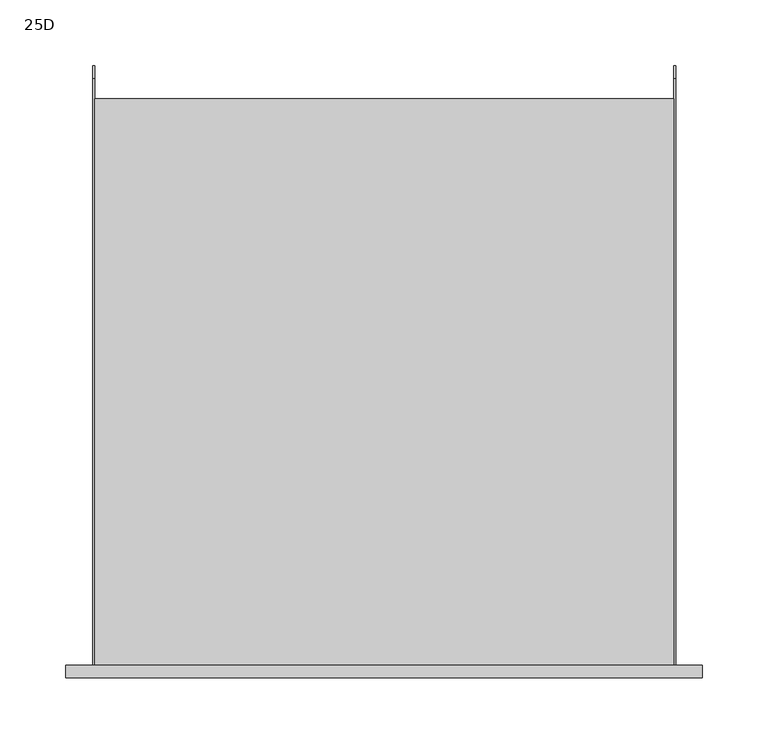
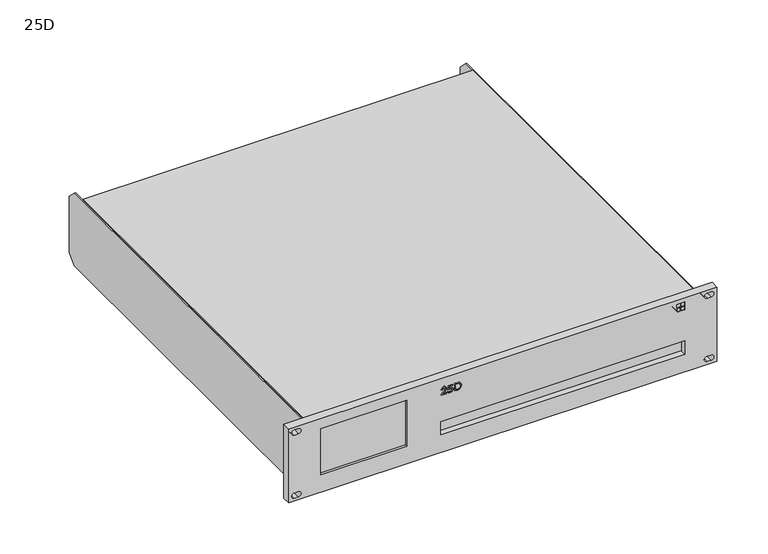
"""IFC4 building model written with IfcOpenShell, lengths in millimetres: proxy geometry, d&b 25D Amplifier : 25D."""

from ifc_helpers import new_model, si_unit, point, frame, frame_2d, origin, origin_with_axes, place, context, project, spatial, polyline, circle_curve, trimmed, segment, composite_curve, outline, extrude, source, transform, mapped, element, save
from ifc_brep_helpers import plane_surface, cylinder_surface, revolved_surface, advanced_brep


def proxy_25d_7f1fb636(model_context):
    return source(origin(), model_context, "Body", "SolidModel", [
        extrude(outline(polyline([(-108.5441747, -219.9500768), (-205.9068249, -219.9500768), (-205.9068249, -212.9500195), (-108.5441747, -212.9500195), (-108.5441747, -219.9500768)])), frame((0.0, 0.0, 20.974976), z_axis=(0.0, 0.0, 1.0), x_axis=(1.0, 0.0, 0.0)), (0.0, 0.0, 1.0), 54.75),
        advanced_brep(
        [(241.669281, -212.9500195, 88.1230012), (241.669281, -222.4500768, 88.1230012), (241.669281, -222.4500768, 0.0), (241.669281, -212.9500195, 0.0), (205.5000687, -222.4500768, 20.974976), (205.5000687, -222.4500768, 37.024963), (205.5000687, -212.9500768, 37.024963), (205.5000687, -212.9500768, 20.974976), (-241.7, -212.9500768, 0.0), (-241.7, -212.9500768, 88.1230012), (-70.1626284, -212.9500768, 37.024963), (-70.1626284, -212.9500768, 20.974976), (-108.5441747, -212.9500768, 75.724976), (-205.9068249, -212.9500768, 75.724976), (-205.9068249, -212.9500768, 20.974976), (-108.5441747, -212.9500768, 20.974976), (198.5187193, -212.9500768, 74.1137333), (198.5187193, -212.9500768, 78.3632503), (200.6434778, -212.9500768, 78.9703242), (200.6434778, -212.9500768, 83.2198412), (196.3939608, -212.9500768, 83.2198412), (196.3939608, -212.9500768, 78.9703242), (201.2505517, -212.9500768, 83.2198412), (201.2505517, -212.9500768, 78.9703242), (205.5000687, -212.9500768, 78.9703242), (205.5000687, -212.9500768, 83.2198412), (201.2505517, -212.9500768, 78.3632503), (201.2505517, -212.9500768, 74.1137333), (205.5000687, -212.9500768, 74.1137333), (205.5000687, -212.9500768, 78.3632503), (-54.4375523, -212.9500768, 67.9515495), (-51.174154, -212.9500768, 67.9515495), (-51.174154, -212.9500768, 76.9164526), (-54.4375523, -212.9500768, 76.9164526), (230.8500595, -212.9500768, 78.7506142), (235.3581466, -212.9500768, 78.7506142), (235.3581466, -212.9500768, 84.7610473), (230.8500595, -212.9500768, 84.7610473), (230.8500595, -212.9500768, 9.372387), (230.8500595, -212.9500768, 3.3619538), (235.3581466, -212.9500768, 3.3619538), (235.3581466, -212.9500768, 9.372387), (-230.8807784, -212.9500768, 78.7506142), (-230.8807784, -212.9500768, 84.7610473), (-235.3888656, -212.9500768, 84.7610473), (-235.3888656, -212.9500768, 78.7506142), (-230.8807784, -212.9500768, 9.372387), (-235.3888656, -212.9500768, 9.372387), (-235.3888656, -212.9500768, 3.3619538), (-230.8807784, -212.9500768, 3.3619538), (-56.7666203, -212.9500768, 76.9164526), (-61.6578079, -212.9500768, 76.9164526), (-62.0556576, -212.9500768, 72.3690094), (-58.9110261, -212.9500768, 72.3690094), (-58.4035059, -212.9500768, 69.7179459), (-62.2493719, -212.9500768, 70.1548451), (-62.3937449, -212.9500768, 68.5046542), (-57.8494895, -212.9500768, 68.3240069), (-58.9110261, -212.9500768, 73.8690094), (-60.4186949, -212.9500768, 73.8690094), (-60.2824279, -212.9500768, 75.4265482), (-56.7666203, -212.9500768, 75.4265482), (-68.0438354, -212.9500768, 74.1711021), (-65.2872376, -212.9500768, 74.1711021), (-66.5650827, -212.9500768, 72.1135144), (-68.2702906, -212.9500768, 70.6826751), (-69.5438354, -212.9500768, 67.9515495), (-63.7872376, -212.9500768, 67.9515495), (-63.7872376, -212.9500768, 69.4515495), (-67.4039033, -212.9500768, 69.4515495), (-65.6009013, -212.9500768, 70.9644478), (-63.7940357, -212.9500768, 73.9733949), (-69.5438354, -212.9500768, 74.1711021), (-241.7, -222.4500768, 88.1230012), (-241.7, -222.4500768, 0.0), (-70.1626284, -222.4500768, 20.974976), (-70.1626284, -222.4500768, 37.024963), (-108.5441747, -222.4500768, 75.724976), (-108.5441747, -222.4500768, 20.974976), (-205.9068249, -222.4500768, 20.974976), (-205.9068249, -222.4500768, 75.724976), (198.5187193, -222.4500768, 74.1137333), (198.5187193, -222.4500768, 78.3632503), (200.6434778, -222.4500768, 78.9703242), (196.3939608, -222.4500768, 78.9703242), (196.3939608, -222.4500768, 83.2198412), (200.6434778, -222.4500768, 83.2198412), (201.2505517, -222.4500768, 83.2198412), (205.5000687, -222.4500768, 83.2198412), (205.5000687, -222.4500768, 78.9703242), (201.2505517, -222.4500768, 78.9703242), (201.2505517, -222.4500768, 78.3632503), (205.5000687, -222.4500768, 78.3632503), (205.5000687, -222.4500768, 74.1137333), (201.2505517, -222.4500768, 74.1137333), (-54.4375523, -222.4500768, 67.9515495), (-54.4375523, -222.4500768, 76.9164526), (-51.174154, -222.4500768, 76.9164526), (-51.174154, -222.4500768, 67.9515495), (230.8500595, -222.4500768, 78.7506142), (230.8500595, -222.4500768, 84.7610473), (235.3581466, -222.4500768, 84.7610473), (235.3581466, -222.4500768, 78.7506142), (230.8500595, -222.4500768, 9.372387), (235.3581466, -222.4500768, 9.372387), (235.3581466, -222.4500768, 3.3619538), (230.8500595, -222.4500768, 3.3619538), (-230.8807784, -222.4500768, 78.7506142), (-235.3888656, -222.4500768, 78.7506142), (-235.3888656, -222.4500768, 84.7610473), (-230.8807784, -222.4500768, 84.7610473), (-230.8807784, -222.4500768, 9.372387), (-230.8807784, -222.4500768, 3.3619538), (-235.3888656, -222.4500768, 3.3619538), (-235.3888656, -222.4500768, 9.372387), (-56.7666203, -222.4500768, 76.9164526), (-56.7666203, -222.4500768, 75.4265482), (-60.2824279, -222.4500768, 75.4265482), (-60.4186949, -222.4500768, 73.8690094), (-58.9110261, -222.4500768, 73.8690094), (-57.8494895, -222.4500768, 68.3240069), (-62.3937449, -222.4500768, 68.5046542), (-62.2493719, -222.4500768, 70.1548451), (-58.4035059, -222.4500768, 69.7179459), (-58.9110261, -222.4500768, 72.3690094), (-62.0556576, -222.4500768, 72.3690094), (-61.6578079, -222.4500768, 76.9164526), (-68.0438354, -222.4500768, 74.1711021), (-69.5438354, -222.4500768, 74.1711021), (-63.7940357, -222.4500768, 73.9733949), (-65.6009013, -222.4500768, 70.9644478), (-67.4039033, -222.4500768, 69.4515495), (-63.7872376, -222.4500768, 69.4515495), (-63.7872376, -222.4500768, 67.9515495), (-69.5438354, -222.4500768, 67.9515495), (-68.2702906, -222.4500768, 70.6826751), (-66.5650827, -222.4500768, 72.1135144), (-65.2872376, -222.4500768, 74.1711021)],
        [
            (0, 1),
            (1, 2),
            (2, 3),
            (3, 0),
            (4, 5),
            (5, 6),
            (6, 7),
            (7, 4),
            (3, 8),
            (8, 9),
            (9, 0),
            (6, 10),
            (10, 11),
            (11, 7),
            (12, 13),
            (13, 14),
            (14, 15),
            (15, 12),
            (16, 17, circle_curve(frame((198.5187193, -212.9500768, 76.2384918), z_axis=(0.0, -1.0, 0.0), x_axis=(0.0, 0.0, 1.0)), 2.1247585)),
            (17, 16, circle_curve(frame((198.5187193, -212.9500768, 76.2384918), z_axis=(0.0, -1.0, 0.0), x_axis=(0.0, 0.0, 1.0)), 2.1247585)),
            (18, 19),
            (19, 20),
            (20, 21),
            (21, 18),
            (22, 23),
            (23, 24),
            (24, 25),
            (25, 22),
            (26, 27),
            (27, 28),
            (28, 29),
            (29, 26),
            (30, 31),
            (31, 32, circle_curve(frame((-51.174154, -212.9500768, 72.434001), z_axis=(0.0, -1.0, 0.0), x_axis=(1.0, 0.0, 0.0)), 4.4824516)),
            (32, 33),
            (33, 30),
            (34, 35),
            (35, 36, circle_curve(frame((235.3581466, -212.9500768, 81.7558307), z_axis=(0.0, -1.0, 0.0), x_axis=(-1.0, 0.0, 0.0)), 3.0052166)),
            (36, 37),
            (37, 34, circle_curve(frame((230.8500595, -212.9500768, 81.7558307), z_axis=(0.0, -1.0, 0.0), x_axis=(-1.0, 0.0, 0.0)), 3.0052166)),
            (38, 39, circle_curve(frame((230.8500595, -212.9500768, 6.3671704), z_axis=(0.0, -1.0, 0.0), x_axis=(-1.0, 0.0, 0.0)), 3.0052166)),
            (39, 40),
            (40, 41, circle_curve(frame((235.3581466, -212.9500768, 6.3671704), z_axis=(0.0, -1.0, 0.0), x_axis=(-1.0, 0.0, 0.0)), 3.0052166)),
            (41, 38),
            (42, 43, circle_curve(frame((-230.8807784, -212.9500768, 81.7558307), z_axis=(0.0, -1.0, 0.0), x_axis=(1.0, 0.0, 0.0)), 3.0052166)),
            (43, 44),
            (44, 45, circle_curve(frame((-235.3888656, -212.9500768, 81.7558307), z_axis=(0.0, -1.0, 0.0), x_axis=(1.0, 0.0, 0.0)), 3.0052166)),
            (45, 42),
            (46, 47),
            (47, 48, circle_curve(frame((-235.3888656, -212.9500768, 6.3671704), z_axis=(0.0, -1.0, 0.0), x_axis=(1.0, 0.0, 0.0)), 3.0052166)),
            (48, 49),
            (49, 46, circle_curve(frame((-230.8807784, -212.9500768, 6.3671704), z_axis=(0.0, -1.0, 0.0), x_axis=(1.0, 0.0, 0.0)), 3.0052166)),
            (50, 51),
            (51, 52),
            (52, 53),
            (53, 54, circle_curve(frame((-58.9110261, -212.9500768, 70.9948977), z_axis=(0.0, 1.0, 0.0), x_axis=(1.0, 0.0, 0.0)), 1.3741117)),
            (54, 55, circle_curve(frame((-59.9182854, -212.9500768, 73.5292234), z_axis=(0.0, 1.0, 0.0), x_axis=(1.0, 0.0, 0.0)), 4.1012672)),
            (55, 56),
            (56, 57, circle_curve(frame((-59.9182854, -212.9500768, 73.5292234), z_axis=(0.0, -1.0, 0.0), x_axis=(1.0, 0.0, 0.0)), 5.6012672)),
            (57, 58, circle_curve(frame((-58.9110261, -212.9500768, 70.9948977), z_axis=(0.0, -1.0, 0.0), x_axis=(1.0, 0.0, 0.0)), 2.8741117)),
            (58, 59),
            (59, 60),
            (60, 61),
            (61, 50),
            (62, 63, circle_curve(frame((-66.6655365, -212.9500768, 74.1711021), z_axis=(0.0, 1.0, 0.0), x_axis=(1.0, 0.0, 0.0)), 1.3782989)),
            (63, 64, circle_curve(frame((-69.0629936, -212.9500768, 75.0904087), z_axis=(0.0, 1.0, 0.0), x_axis=(1.0, 0.0, 0.0)), 3.8860595)),
            (64, 65),
            (65, 66, circle_curve(frame((-65.8736338, -212.9500768, 67.9026011), z_axis=(0.0, -1.0, 0.0), x_axis=(1.0, 0.0, 0.0)), 3.6705279)),
            (66, 67),
            (67, 68),
            (68, 69),
            (69, 70),
            (70, 71, circle_curve(frame((-69.0629936, -212.9500768, 75.0904087), z_axis=(0.0, -1.0, 0.0), x_axis=(1.0, 0.0, 0.0)), 5.3860595)),
            (71, 72, circle_curve(frame((-66.6655365, -212.9500768, 74.1711021), z_axis=(0.0, -1.0, 0.0), x_axis=(1.0, 0.0, 0.0)), 2.8782989)),
            (72, 62),
            (1, 73),
            (73, 74),
            (74, 2),
            (4, 75),
            (75, 76),
            (76, 5),
            (77, 78),
            (78, 79),
            (79, 80),
            (80, 77),
            (81, 82, circle_curve(frame((198.5187193, -222.4500768, 76.2384918), z_axis=(0.0, 1.0, 0.0), x_axis=(0.0, 0.0, 1.0)), 2.1247585)),
            (82, 81, circle_curve(frame((198.5187193, -222.4500768, 76.2384918), z_axis=(0.0, 1.0, 0.0), x_axis=(0.0, 0.0, 1.0)), 2.1247585)),
            (83, 84),
            (84, 85),
            (85, 86),
            (86, 83),
            (87, 88),
            (88, 89),
            (89, 90),
            (90, 87),
            (91, 92),
            (92, 93),
            (93, 94),
            (94, 91),
            (95, 96),
            (96, 97),
            (97, 98, circle_curve(frame((-51.174154, -222.4500768, 72.434001), z_axis=(0.0, 1.0, 0.0), x_axis=(1.0, 0.0, 0.0)), 4.4824516)),
            (98, 95),
            (99, 100, circle_curve(frame((230.8500595, -222.4500768, 81.7558307), z_axis=(0.0, 1.0, 0.0), x_axis=(-1.0, 0.0, 0.0)), 3.0052166)),
            (100, 101),
            (101, 102, circle_curve(frame((235.3581466, -222.4500768, 81.7558307), z_axis=(0.0, 1.0, 0.0), x_axis=(-1.0, 0.0, 0.0)), 3.0052166)),
            (102, 99),
            (103, 104),
            (104, 105, circle_curve(frame((235.3581466, -222.4500768, 6.3671704), z_axis=(0.0, 1.0, 0.0), x_axis=(-1.0, 0.0, 0.0)), 3.0052166)),
            (105, 106),
            (106, 103, circle_curve(frame((230.8500595, -222.4500768, 6.3671704), z_axis=(0.0, 1.0, 0.0), x_axis=(-1.0, 0.0, 0.0)), 3.0052166)),
            (107, 108),
            (108, 109, circle_curve(frame((-235.3888656, -222.4500768, 81.7558307), z_axis=(0.0, 1.0, 0.0), x_axis=(1.0, 0.0, 0.0)), 3.0052166)),
            (109, 110),
            (110, 107, circle_curve(frame((-230.8807784, -222.4500768, 81.7558307), z_axis=(0.0, 1.0, 0.0), x_axis=(1.0, 0.0, 0.0)), 3.0052166)),
            (111, 112, circle_curve(frame((-230.8807784, -222.4500768, 6.3671704), z_axis=(0.0, 1.0, 0.0), x_axis=(1.0, 0.0, 0.0)), 3.0052166)),
            (112, 113),
            (113, 114, circle_curve(frame((-235.3888656, -222.4500768, 6.3671704), z_axis=(0.0, 1.0, 0.0), x_axis=(1.0, 0.0, 0.0)), 3.0052166)),
            (114, 111),
            (115, 116),
            (116, 117),
            (117, 118),
            (118, 119),
            (119, 120, circle_curve(frame((-58.9110261, -222.4500768, 70.9948977), z_axis=(0.0, 1.0, 0.0), x_axis=(1.0, 0.0, 0.0)), 2.8741117)),
            (120, 121, circle_curve(frame((-59.9182854, -222.4500768, 73.5292234), z_axis=(0.0, 1.0, 0.0), x_axis=(1.0, 0.0, 0.0)), 5.6012672)),
            (121, 122),
            (122, 123, circle_curve(frame((-59.9182854, -222.4500768, 73.5292234), z_axis=(0.0, -1.0, 0.0), x_axis=(1.0, 0.0, 0.0)), 4.1012672)),
            (123, 124, circle_curve(frame((-58.9110261, -222.4500768, 70.9948977), z_axis=(0.0, -1.0, 0.0), x_axis=(1.0, 0.0, 0.0)), 1.3741117)),
            (124, 125),
            (125, 126),
            (126, 115),
            (127, 128),
            (128, 129, circle_curve(frame((-66.6655365, -222.4500768, 74.1711021), z_axis=(0.0, 1.0, 0.0), x_axis=(1.0, 0.0, 0.0)), 2.8782989)),
            (129, 130, circle_curve(frame((-69.0629936, -222.4500768, 75.0904087), z_axis=(0.0, 1.0, 0.0), x_axis=(1.0, 0.0, 0.0)), 5.3860595)),
            (130, 131),
            (131, 132),
            (132, 133),
            (133, 134),
            (134, 135, circle_curve(frame((-65.8736338, -222.4500768, 67.9026011), z_axis=(0.0, 1.0, 0.0), x_axis=(1.0, 0.0, 0.0)), 3.6705279)),
            (135, 136),
            (136, 137, circle_curve(frame((-69.0629936, -222.4500768, 75.0904087), z_axis=(0.0, -1.0, 0.0), x_axis=(1.0, 0.0, 0.0)), 3.8860595)),
            (137, 127, circle_curve(frame((-66.6655365, -222.4500768, 74.1711021), z_axis=(0.0, -1.0, 0.0), x_axis=(1.0, 0.0, 0.0)), 1.3782989)),
            (14, 79),
            (78, 15),
            (13, 80),
            (12, 77),
            (11, 75),
            (10, 76),
            (9, 73),
            (8, 74),
            (17, 82),
            (81, 16),
            (21, 84),
            (83, 18),
            (20, 85),
            (19, 86),
            (25, 88),
            (87, 22),
            (24, 89),
            (23, 90),
            (29, 92),
            (91, 26),
            (28, 93),
            (27, 94),
            (33, 96),
            (95, 30),
            (32, 97),
            (31, 98),
            (37, 100),
            (99, 34),
            (36, 101),
            (35, 102),
            (41, 104),
            (103, 38),
            (40, 105),
            (39, 106),
            (45, 108),
            (107, 42),
            (44, 109),
            (43, 110),
            (49, 112),
            (111, 46),
            (48, 113),
            (47, 114),
            (61, 116),
            (115, 50),
            (60, 117),
            (59, 118),
            (58, 119),
            (57, 120),
            (56, 121),
            (55, 122),
            (54, 123),
            (53, 124),
            (52, 125),
            (51, 126),
            (72, 128),
            (127, 62),
            (71, 129),
            (70, 130),
            (69, 131),
            (68, 132),
            (67, 133),
            (66, 134),
            (65, 135),
            (64, 136),
            (63, 137),
        ],
        [
            plane_surface(frame((241.669281, -212.9500768, 87.1230012), z_axis=(1.0, 0.0, 0.0), x_axis=(0.0, 0.0, 1.0))),
            plane_surface(frame((205.5000687, -212.9500768, 87.1230012), z_axis=(-1.0, 0.0, 0.0), x_axis=(0.0, 0.0, -1.0))),
            plane_surface(frame((241.669281, -212.9500768, 20.974976), z_axis=(0.0, 1.0, 0.0), x_axis=(-1.0, 0.0, 0.0))),
            plane_surface(frame((241.669281, -222.4500768, 37.024963), z_axis=(0.0, -1.0, 0.0), x_axis=(-1.0, 0.0, 0.0))),
            plane_surface(frame((-108.5441747, -222.4500768, 20.974976), z_axis=(0.0, 0.0, 1.0), x_axis=(0.0, 1.0, 0.0))),
            plane_surface(frame((-205.9068249, -222.4500768, 20.974976), z_axis=(1.0, 0.0, 0.0), x_axis=(0.0, 1.0, 0.0))),
            plane_surface(frame((-205.9068249, -222.4500768, 75.724976), z_axis=(0.0, 0.0, -1.0), x_axis=(0.0, 1.0, 0.0))),
            plane_surface(frame((-108.5441747, -222.4500768, 75.724976), z_axis=(-1.0, 0.0, 0.0), x_axis=(0.0, 1.0, 0.0))),
            plane_surface(frame((205.5000687, -222.4500768, 20.974976), z_axis=(0.0, 0.0, 1.0), x_axis=(0.0, 1.0, 0.0))),
            plane_surface(frame((-70.1626284, -222.4500768, 20.974976), z_axis=(1.0, 0.0, 0.0), x_axis=(0.0, 1.0, 0.0))),
            plane_surface(frame((241.669281, -222.4500768, 88.1230012), z_axis=(0.0, 0.0, 1.0), x_axis=(0.0, 1.0, 0.0))),
            plane_surface(frame((-241.7, -222.4500768, 88.1230012), z_axis=(-1.0, 0.0, 0.0), x_axis=(0.0, 1.0, 0.0))),
            plane_surface(frame((-241.7, -222.4500768, 0.0), z_axis=(0.0, 0.0, -1.0), x_axis=(0.0, 1.0, 0.0))),
            plane_surface(frame((-70.1626284, -222.4500768, 37.024963), z_axis=(0.0, 0.0, -1.0), x_axis=(0.0, 1.0, 0.0))),
            revolved_surface(polyline([(198.5187193, -212.9500768, 78.3632503), (198.5187193, -222.4500768, 78.3632503)]), (198.5187193, -222.4500768, 76.2384918), (0.0, 1.0, 0.0)),
            plane_surface(frame((200.6434778, -222.4500768, 78.9703242), z_axis=(0.0, 0.0, 1.0), x_axis=(0.0, 1.0, 0.0))),
            plane_surface(frame((196.3939608, -222.4500768, 78.9703242), z_axis=(1.0, 0.0, 0.0), x_axis=(0.0, 1.0, 0.0))),
            plane_surface(frame((196.3939608, -222.4500768, 83.2198412), z_axis=(0.0, 0.0, -1.0), x_axis=(0.0, 1.0, 0.0))),
            plane_surface(frame((200.6434778, -222.4500768, 83.2198412), z_axis=(-1.0, 0.0, 0.0), x_axis=(0.0, 1.0, 0.0))),
            plane_surface(frame((201.2505517, -222.4500768, 83.2198412), z_axis=(0.0, 0.0, -1.0), x_axis=(0.0, 1.0, 0.0))),
            plane_surface(frame((205.5000687, -222.4500768, 83.2198412), z_axis=(-1.0, 0.0, 0.0), x_axis=(0.0, 1.0, 0.0))),
            plane_surface(frame((205.5000687, -222.4500768, 78.9703242), z_axis=(0.0, 0.0, 1.0), x_axis=(0.0, 1.0, 0.0))),
            plane_surface(frame((201.2505517, -222.4500768, 78.9703242), z_axis=(1.0, 0.0, 0.0), x_axis=(0.0, 1.0, 0.0))),
            plane_surface(frame((201.2505517, -222.4500768, 78.3632503), z_axis=(0.0, 0.0, -1.0), x_axis=(0.0, 1.0, 0.0))),
            plane_surface(frame((205.5000687, -222.4500768, 78.3632503), z_axis=(-1.0, 0.0, 0.0), x_axis=(0.0, 1.0, 0.0))),
            plane_surface(frame((205.5000687, -222.4500768, 74.1137333), z_axis=(0.0, 0.0, 1.0), x_axis=(0.0, 1.0, 0.0))),
            plane_surface(frame((201.2505517, -222.4500768, 74.1137333), z_axis=(1.0, 0.0, 0.0), x_axis=(0.0, 1.0, 0.0))),
            plane_surface(frame((-54.4375523, -222.4500768, 67.9515495), z_axis=(1.0, 0.0, 0.0), x_axis=(0.0, 1.0, 0.0))),
            plane_surface(frame((-54.4375523, -222.4500768, 76.9164526), z_axis=(0.0, 0.0, -1.0), x_axis=(0.0, 1.0, 0.0))),
            revolved_surface(polyline([(-46.691702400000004, -212.9500768, 72.434001), (-46.691702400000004, -222.4500768, 72.434001)]), (-51.174154, -222.4500768, 72.434001), (0.0, 1.0, 0.0)),
            plane_surface(frame((-51.174154, -222.4500768, 67.9515495), z_axis=(0.0, 0.0, 1.0), x_axis=(0.0, 1.0, 0.0))),
            revolved_surface(polyline([(227.84484289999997, -212.9500768, 81.7558307), (227.84484289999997, -222.4500768, 81.7558307)]), (230.8500595, -222.4500768, 81.7558307), (0.0, 1.0, 0.0)),
            plane_surface(frame((230.8500595, -222.4500768, 84.7610473), z_axis=(0.0, 0.0, -1.0), x_axis=(0.0, 1.0, 0.0))),
            revolved_surface(polyline([(232.35293, -212.9500768, 81.7558307), (232.35293, -222.4500768, 81.7558307)]), (235.3581466, -222.4500768, 81.7558307), (0.0, 1.0, 0.0)),
            plane_surface(frame((235.3581466, -222.4500768, 78.7506142), z_axis=(0.0, 0.0, 1.0), x_axis=(0.0, 1.0, 0.0))),
            plane_surface(frame((230.8500595, -222.4500768, 9.372387), z_axis=(0.0, 0.0, -1.0), x_axis=(0.0, 1.0, 0.0))),
            revolved_surface(polyline([(232.35293, -212.9500768, 6.3671704), (232.35293, -222.4500768, 6.3671704)]), (235.3581466, -222.4500768, 6.3671704), (0.0, 1.0, 0.0)),
            plane_surface(frame((235.3581466, -222.4500768, 3.3619538), z_axis=(0.0, 0.0, 1.0), x_axis=(0.0, 1.0, 0.0))),
            revolved_surface(polyline([(227.84484289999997, -212.9500768, 6.3671704), (227.84484289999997, -222.4500768, 6.3671704)]), (230.8500595, -222.4500768, 6.3671704), (0.0, 1.0, 0.0)),
            plane_surface(frame((-230.8807784, -222.4500768, 78.7506142), z_axis=(0.0, 0.0, 1.0), x_axis=(0.0, 1.0, 0.0))),
            revolved_surface(polyline([(-232.383649, -212.9500768, 81.7558307), (-232.383649, -222.4500768, 81.7558307)]), (-235.3888656, -222.4500768, 81.7558307), (0.0, 1.0, 0.0)),
            plane_surface(frame((-235.3888656, -222.4500768, 84.7610473), z_axis=(0.0, 0.0, -1.0), x_axis=(0.0, 1.0, 0.0))),
            revolved_surface(polyline([(-227.87556179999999, -212.9500768, 81.7558307), (-227.87556179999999, -222.4500768, 81.7558307)]), (-230.8807784, -222.4500768, 81.7558307), (0.0, 1.0, 0.0)),
            revolved_surface(polyline([(-227.87556179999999, -212.9500768, 6.3671704), (-227.87556179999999, -222.4500768, 6.3671704)]), (-230.8807784, -222.4500768, 6.3671704), (0.0, 1.0, 0.0)),
            plane_surface(frame((-230.8807784, -222.4500768, 3.3619538), z_axis=(0.0, 0.0, 1.0), x_axis=(0.0, 1.0, 0.0))),
            revolved_surface(polyline([(-232.383649, -212.9500768, 6.3671704), (-232.383649, -222.4500768, 6.3671704)]), (-235.3888656, -222.4500768, 6.3671704), (0.0, 1.0, 0.0)),
            plane_surface(frame((-235.3888656, -222.4500768, 9.372387), z_axis=(0.0, 0.0, -1.0), x_axis=(0.0, 1.0, 0.0))),
            plane_surface(frame((-56.7666203, -222.4500768, 76.9164526), z_axis=(-1.0, 0.0, 0.0), x_axis=(0.0, 1.0, 0.0))),
            plane_surface(frame((-56.7666203, -222.4500768, 75.4265482), z_axis=(0.0, 0.0, 1.0), x_axis=(0.0, 1.0, 0.0))),
            plane_surface(frame((-60.2824279, -222.4500768, 75.4265482), z_axis=(-0.9961946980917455, 0.0, 0.08715574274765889), x_axis=(0.0, 1.0, 0.0))),
            plane_surface(frame((-60.4186949, -222.4500768, 73.8690094), z_axis=(0.0, 0.0, -1.0), x_axis=(0.0, 1.0, 0.0))),
            revolved_surface(polyline([(-56.0369144, -212.9500768, 70.9948977), (-56.0369144, -222.4500768, 70.9948977)]), (-58.9110261, -222.4500768, 70.9948977), (0.0, 1.0, 0.0)),
            revolved_surface(polyline([(-54.3170182, -212.9500768, 73.5292234), (-54.3170182, -222.4500768, 73.5292234)]), (-59.9182854, -222.4500768, 73.5292234), (0.0, 1.0, 0.0)),
            plane_surface(frame((-62.3937449, -222.4500768, 68.5046542), z_axis=(0.9961946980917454, 0.0, -0.08715574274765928), x_axis=(0.0, 1.0, 0.0))),
            cylinder_surface(frame((-59.9182854, -222.4500768, 73.5292234), z_axis=(0.0, -1.0, 0.0), x_axis=(1.0, 0.0, 0.0)), 4.1012672),
            cylinder_surface(frame((-58.9110261, -222.4500768, 70.9948977), z_axis=(0.0, -1.0, 0.0), x_axis=(1.0, 0.0, 0.0)), 1.3741117),
            plane_surface(frame((-58.9110261, -222.4500768, 72.3690094), z_axis=(0.0, 0.0, 1.0), x_axis=(0.0, 1.0, 0.0))),
            plane_surface(frame((-62.0556576, -222.4500768, 72.3690094), z_axis=(0.9961946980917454, 0.0, -0.08715574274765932), x_axis=(0.0, 1.0, 0.0))),
            plane_surface(frame((-61.6578079, -222.4500768, 76.9164526), z_axis=(0.0, 0.0, -1.0), x_axis=(0.0, 1.0, 0.0))),
            plane_surface(frame((-68.0438354, -222.4500768, 74.1711021), z_axis=(0.0, 0.0, 1.0), x_axis=(0.0, 1.0, 0.0))),
            revolved_surface(polyline([(-63.787237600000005, -212.9500768, 74.1711021), (-63.787237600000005, -222.4500768, 74.1711021)]), (-66.6655365, -222.4500768, 74.1711021), (0.0, 1.0, 0.0)),
            revolved_surface(polyline([(-63.6769341, -212.9500768, 75.0904087), (-63.6769341, -222.4500768, 75.0904087)]), (-69.0629936, -222.4500768, 75.0904087), (0.0, 1.0, 0.0)),
            plane_surface(frame((-65.6009013, -222.4500768, 70.9644478), z_axis=(-0.6427876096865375, 0.0, 0.7660444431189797), x_axis=(0.0, 1.0, 0.0))),
            plane_surface(frame((-67.4039033, -222.4500768, 69.4515495), z_axis=(0.0, 0.0, -1.0), x_axis=(0.0, 1.0, 0.0))),
            plane_surface(frame((-63.7872376, -222.4500768, 69.4515495), z_axis=(-1.0, 0.0, 0.0), x_axis=(0.0, 1.0, 0.0))),
            plane_surface(frame((-63.7872376, -222.4500768, 67.9515495), z_axis=(0.0, 0.0, 1.0), x_axis=(0.0, 1.0, 0.0))),
            revolved_surface(polyline([(-62.20310589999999, -212.9500768, 67.9026011), (-62.20310589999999, -222.4500768, 67.9026011)]), (-65.8736338, -222.4500768, 67.9026011), (0.0, 1.0, 0.0)),
            plane_surface(frame((-68.2702906, -222.4500768, 70.6826751), z_axis=(0.6427876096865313, 0.0, -0.7660444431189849), x_axis=(0.0, 1.0, 0.0))),
            cylinder_surface(frame((-69.0629936, -222.4500768, 75.0904087), z_axis=(0.0, -1.0, 0.0), x_axis=(1.0, 0.0, 0.0)), 3.8860595),
            cylinder_surface(frame((-66.6655365, -222.4500768, 74.1711021), z_axis=(0.0, -1.0, 0.0), x_axis=(1.0, 0.0, 0.0)), 1.3782989),
        ],
        [
            (0, [[1, 2, 3, 4]]),
            (1, [[5, 6, 7, 8]]),
            (2, [[-4, 9, 10, 11], [-7, 12, 13, 14], [15, 16, 17, 18], [19, 20], [21, 22, 23, 24], [25, 26, 27, 28], [29, 30, 31, 32], [33, 34, 35, 36], [37, 38, 39, 40], [41, 42, 43, 44], [45, 46, 47, 48], [49, 50, 51, 52], [53, 54, 55, 56, 57, 58, 59, 60, 61, 62, 63, 64], [65, 66, 67, 68, 69, 70, 71, 72, 73, 74, 75]]),
            (3, [[-2, 76, 77, 78], [-5, 79, 80, 81], [82, 83, 84, 85], [86, 87], [88, 89, 90, 91], [92, 93, 94, 95], [96, 97, 98, 99], [100, 101, 102, 103], [104, 105, 106, 107], [108, 109, 110, 111], [112, 113, 114, 115], [116, 117, 118, 119], [120, 121, 122, 123, 124, 125, 126, 127, 128, 129, 130, 131], [132, 133, 134, 135, 136, 137, 138, 139, 140, 141, 142]]),
            (4, [[-17, 143, -83, 144]]),
            (5, [[-16, 145, -84, -143]]),
            (6, [[-15, 146, -85, -145]]),
            (7, [[-18, -144, -82, -146]]),
            (8, [[-14, 147, -79, -8]]),
            (9, [[-13, 148, -80, -147]]),
            (10, [[-11, 149, -76, -1]]),
            (11, [[-10, 150, -77, -149]]),
            (12, [[-9, -3, -78, -150]]),
            (13, [[-12, -6, -81, -148]]),
            (14, [[-20, 151, -86, 152]]),
            (14, [[-19, -152, -87, -151]]),
            (15, [[-24, 153, -88, 154]]),
            (16, [[-23, 155, -89, -153]]),
            (17, [[-22, 156, -90, -155]]),
            (18, [[-21, -154, -91, -156]]),
            (19, [[-28, 157, -92, 158]]),
            (20, [[-27, 159, -93, -157]]),
            (21, [[-26, 160, -94, -159]]),
            (22, [[-25, -158, -95, -160]]),
            (23, [[-32, 161, -96, 162]]),
            (24, [[-31, 163, -97, -161]]),
            (25, [[-30, 164, -98, -163]]),
            (26, [[-29, -162, -99, -164]]),
            (27, [[-36, 165, -100, 166]]),
            (28, [[-35, 167, -101, -165]]),
            (29, [[-34, 168, -102, -167]]),
            (30, [[-33, -166, -103, -168]]),
            (31, [[-40, 169, -104, 170]]),
            (32, [[-39, 171, -105, -169]]),
            (33, [[-38, 172, -106, -171]]),
            (34, [[-37, -170, -107, -172]]),
            (35, [[-44, 173, -108, 174]]),
            (36, [[-43, 175, -109, -173]]),
            (37, [[-42, 176, -110, -175]]),
            (38, [[-41, -174, -111, -176]]),
            (39, [[-48, 177, -112, 178]]),
            (40, [[-47, 179, -113, -177]]),
            (41, [[-46, 180, -114, -179]]),
            (42, [[-45, -178, -115, -180]]),
            (43, [[-52, 181, -116, 182]]),
            (44, [[-51, 183, -117, -181]]),
            (45, [[-50, 184, -118, -183]]),
            (46, [[-49, -182, -119, -184]]),
            (47, [[-64, 185, -120, 186]]),
            (48, [[-63, 187, -121, -185]]),
            (49, [[-62, 188, -122, -187]]),
            (50, [[-61, 189, -123, -188]]),
            (51, [[-60, 190, -124, -189]]),
            (52, [[-59, 191, -125, -190]]),
            (53, [[-58, 192, -126, -191]]),
            (54, [[-57, 193, -127, -192]]),
            (55, [[-56, 194, -128, -193]]),
            (56, [[-55, 195, -129, -194]]),
            (57, [[-54, 196, -130, -195]]),
            (58, [[-53, -186, -131, -196]]),
            (59, [[-75, 197, -132, 198]]),
            (60, [[-74, 199, -133, -197]]),
            (61, [[-73, 200, -134, -199]]),
            (62, [[-72, 201, -135, -200]]),
            (63, [[-71, 202, -136, -201]]),
            (64, [[-70, 203, -137, -202]]),
            (65, [[-69, 204, -138, -203]]),
            (66, [[-68, 205, -139, -204]]),
            (67, [[-67, 206, -140, -205]]),
            (68, [[-66, 207, -141, -206]]),
            (69, [[-65, -198, -142, -207]]),
        ],
    ),
        advanced_brep(
        [(-51.174154, -212.9500768, 69.4515495), (-52.9375523, -212.9500768, 69.4515495), (-52.9375523, -212.9500768, 75.4164526), (-51.174154, -212.9500768, 75.4164526), (-51.174154, -222.4500768, 69.4515495), (-51.174154, -222.4500768, 75.4164526), (-52.9375523, -222.4500768, 75.4164526), (-52.9375523, -222.4500768, 69.4515495)],
        [
            (0, 1),
            (1, 2),
            (2, 3),
            (3, 0, circle_curve(frame((-51.174154, -212.9500768, 72.434001), z_axis=(0.0, 1.0, 0.0), x_axis=(1.0, 0.0, 0.0)), 2.9824516)),
            (4, 5, circle_curve(frame((-51.174154, -222.4500768, 72.434001), z_axis=(0.0, -1.0, 0.0), x_axis=(1.0, 0.0, 0.0)), 2.9824516)),
            (5, 6),
            (6, 7),
            (7, 4),
            (3, 5),
            (4, 0),
            (2, 6),
            (1, 7),
        ],
        [
            plane_surface(frame((241.669281, -212.9500768, 20.974976), z_axis=(0.0, 1.0, 0.0), x_axis=(-1.0, 0.0, 0.0))),
            plane_surface(frame((241.669281, -222.4500768, 37.024963), z_axis=(0.0, -1.0, 0.0), x_axis=(-1.0, 0.0, 0.0))),
            cylinder_surface(frame((-51.174154, -222.4500768, 72.434001), z_axis=(0.0, -1.0, 0.0), x_axis=(1.0, 0.0, 0.0)), 2.9824516),
            plane_surface(frame((-51.174154, -222.4500768, 75.4164526), z_axis=(0.0, 0.0, 1.0), x_axis=(0.0, 1.0, 0.0))),
            plane_surface(frame((-52.9375523, -222.4500768, 75.4164526), z_axis=(-1.0, 0.0, 0.0), x_axis=(0.0, 1.0, 0.0))),
            plane_surface(frame((-52.9375523, -222.4500768, 69.4515495), z_axis=(0.0, 0.0, -1.0), x_axis=(0.0, 1.0, 0.0))),
        ],
        [
            (0, [[1, 2, 3, 4]]),
            (1, [[5, 6, 7, 8]]),
            (2, [[-4, 9, -5, 10]]),
            (3, [[-3, 11, -6, -9]]),
            (4, [[-2, 12, -7, -11]]),
            (5, [[-1, -10, -8, -12]]),
        ],
    ),
        extrude(outline(polyline([(200.6434778, -222.4500768), (196.3939608, -222.4500768), (196.3939608, -217.4500768), (200.6434778, -217.4500768), (200.6434778, -222.4500768)])), frame((0.0, 0.0, 78.9703242), z_axis=(0.0, 0.0, 1.0), x_axis=(1.0, 0.0, 0.0)), (0.0, 0.0, 1.0), 4.249517),
        extrude(outline(polyline([(205.5000687, -222.4500768), (201.2505517, -222.4500768), (201.2505517, -217.4500768), (205.5000687, -217.4500768), (205.5000687, -222.4500768)])), frame((0.0, 0.0, 78.9703242), z_axis=(0.0, 0.0, 1.0), x_axis=(1.0, 0.0, 0.0)), (0.0, 0.0, 1.0), 4.249517),
        extrude(outline(polyline([(205.5000687, -222.4500768), (201.2505517, -222.4500768), (201.2505517, -217.4500768), (205.5000687, -217.4500768), (205.5000687, -222.4500768)])), frame((0.0, 0.0, 74.1137333), z_axis=(0.0, 0.0, 1.0), x_axis=(1.0, 0.0, 0.0)), (0.0, 0.0, 1.0), 4.249517),
        extrude(outline(composite_curve([segment(trimmed(circle_curve(frame_2d((76.2384918, 198.5187193)), 2.1247585), [point((74.1137333, 198.5187193))], [point((78.3632503, 198.5187193))], False, "CARTESIAN"), True, "CONTINUOUS"), segment(trimmed(circle_curve(frame_2d((76.2384918, 198.5187193)), 2.1247585), [point((78.3632503, 198.5187193))], [point((74.1137333, 198.5187193))], False, "CARTESIAN"), True, "CONTINUOUS")], self_intersect=False)), frame((0.0, -222.4500768, 0.0), z_axis=(0.0, 1.0, 0.0), x_axis=(0.0, 0.0, 1.0)), (0.0, 0.0, 1.0), 5.0),
        extrude(outline(composite_curve([segment(polyline([(76.9164526, -51.174154), (76.9164526, -54.4375523), (67.9515495, -54.4375523), (67.9515495, -51.174154)]), True, "CONTINUOUS"), segment(trimmed(circle_curve(frame_2d((72.434001, -51.174154)), 4.4824516), [point((67.9515495, -51.174154))], [point((76.9164526, -51.174154))], False, "CARTESIAN"), True, "CONTINUOUS")], self_intersect=False), holes=[composite_curve([segment(polyline([(69.4515495, -51.174154), (69.4515495, -52.9375523), (75.4164526, -52.9375523), (75.4164526, -51.174154)]), True, "CONTINUOUS"), segment(trimmed(circle_curve(frame_2d((72.434001, -51.174154)), 2.9824516), [point((75.4164526, -51.174154))], [point((69.4515495, -51.174154))], True, "CARTESIAN"), True, "CONTINUOUS")], self_intersect=False)]), frame((0.0, -222.4500768, 0.0), z_axis=(0.0, 1.0, 0.0), x_axis=(0.0, 0.0, 1.0)), (0.0, 0.0, 1.0), 5.0),
        extrude(outline(composite_curve([segment(polyline([(76.9164526, -56.7666203), (76.9164526, -61.6578079), (72.3690094, -62.0556576), (72.3690094, -58.9110261)]), True, "CONTINUOUS"), segment(trimmed(circle_curve(frame_2d((70.9948977, -58.9110261)), 1.3741117), [point((72.3690094, -58.9110261))], [point((69.7179459, -58.4035059))], True, "CARTESIAN"), True, "CONTINUOUS"), segment(trimmed(circle_curve(frame_2d((73.5292234, -59.9182854)), 4.1012672), [point((69.7179459, -58.4035059))], [point((70.1548451, -62.2493719))], True, "CARTESIAN"), True, "CONTINUOUS"), segment(polyline([(70.1548451, -62.2493719), (68.5046542, -62.3937449)]), True, "CONTINUOUS"), segment(trimmed(circle_curve(frame_2d((73.5292234, -59.9182854)), 5.6012672), [point((68.5046542, -62.3937449))], [point((68.3240069, -57.8494895))], False, "CARTESIAN"), True, "CONTINUOUS"), segment(trimmed(circle_curve(frame_2d((70.9948977, -58.9110261)), 2.8741117), [point((68.3240069, -57.8494895))], [point((73.8690094, -58.9110261))], False, "CARTESIAN"), True, "CONTINUOUS"), segment(polyline([(73.8690094, -58.9110261), (73.8690094, -60.4186949), (75.4265482, -60.2824279), (75.4265482, -56.7666203), (76.9164526, -56.7666203)]), True, "CONTINUOUS")], self_intersect=False)), frame((0.0, -222.4500768, 0.0), z_axis=(0.0, 1.0, 0.0), x_axis=(0.0, 0.0, 1.0)), (0.0, 0.0, 1.0), 5.0),
        extrude(outline(composite_curve([segment(trimmed(circle_curve(frame_2d((74.1711021, -66.6655365)), 1.3782989), [point((74.1711021, -68.0438354))], [point((74.1711021, -65.2872376))], True, "CARTESIAN"), True, "CONTINUOUS"), segment(trimmed(circle_curve(frame_2d((75.0904087, -69.0629936)), 3.8860595), [point((74.1711021, -65.2872376))], [point((72.1135144, -66.5650827))], True, "CARTESIAN"), True, "CONTINUOUS"), segment(polyline([(72.1135144, -66.5650827), (70.6826751, -68.2702906)]), True, "CONTINUOUS"), segment(trimmed(circle_curve(frame_2d((67.9026011, -65.8736338)), 3.6705279), [point((70.6826751, -68.2702906))], [point((67.9515495, -69.5438354))], False, "CARTESIAN"), True, "CONTINUOUS"), segment(polyline([(67.9515495, -69.5438354), (67.9515495, -63.7872376), (69.4515495, -63.7872376), (69.4515495, -67.4039033), (70.9644478, -65.6009013)]), True, "CONTINUOUS"), segment(trimmed(circle_curve(frame_2d((75.0904087, -69.0629936)), 5.3860595), [point((70.9644478, -65.6009013))], [point((73.9733949, -63.7940357))], False, "CARTESIAN"), True, "CONTINUOUS"), segment(trimmed(circle_curve(frame_2d((74.1711021, -66.6655365)), 2.8782989), [point((73.9733949, -63.7940357))], [point((74.1711021, -69.5438354))], False, "CARTESIAN"), True, "CONTINUOUS"), segment(polyline([(74.1711021, -69.5438354), (74.1711021, -68.0438354)]), True, "CONTINUOUS")], self_intersect=False)), frame((0.0, -222.4500768, 0.0), z_axis=(0.0, 1.0, 0.0), x_axis=(0.0, 0.0, 1.0)), (0.0, 0.0, 1.0), 5.0),
        extrude(outline(polyline([(205.5000687, -212.9500768), (205.5000687, -215.9500768), (-70.1904432, -215.9500768), (-70.1904432, -212.9500768), (205.5000687, -212.9500768)])), frame((0.0, 0.0, 20.974976), z_axis=(0.0, 0.0, 1.0), x_axis=(1.0, 0.0, 0.0)), (0.0, 0.0, 1.0), 16.049987),
        extrude(outline(polyline([(220.169281, 217.5000159), (220.169281, -212.9500195), (-219.830704, -212.9500195), (-219.830704, 217.5000159), (220.169281, 217.5000159)])), origin_with_axes(), (0.0, 0.0, 1.0), 88.1),
        extrude(outline(polyline([(232.4998436, 86.6230011), (242.437191, 76.6856537), (242.437191, 10.0603027), (232.3768883, 0.0), (-212.5001259, 0.0), (-212.5001259, 86.6230011), (232.4998436, 86.6230011)])), frame((220.169281, 0.0, 0.0), z_axis=(1.0, 0.0, 0.0), x_axis=(0.0, 1.0, 0.0)), (0.0, 0.0, 1.0), 1.5),
        extrude(outline(polyline([(232.4998436, 86.6230011), (242.437191, 76.6856537), (242.437191, 10.0603027), (232.3768883, 0.0), (-212.5001259, 0.0), (-212.5001259, 86.6230011), (232.4998436, 86.6230011)])), frame((-221.330704, 0.0, 0.0), z_axis=(1.0, 0.0, 0.0), x_axis=(0.0, 1.0, 0.0)), (0.0, 0.0, 1.0), 1.5),
    ])


if __name__ == "__main__":
    model = new_model("IFC4")
    model_context = context("Model", 3, world=origin())
    ifc_project = project(units=[si_unit("LENGTHUNIT", "METRE", prefix="MILLI")], contexts=[model_context])
    site = spatial("IfcSite", under=ifc_project)
    building = spatial("IfcBuilding", under=site)
    placement = place(None, origin())
    proxy_25d_shape = proxy_25d_7f1fb636(model_context)
    element("IfcBuildingElementProxy", 1, Name="d&b 25D Amplifier : 25D", ObjectType="d&b 25D Amplifier : 25D", at=placement, inside=building, context=model_context, shape_type="MappedRepresentation", body=[
        mapped(proxy_25d_shape, transform((0.0, 0.0, 0.0), x_axis=(1.0, 0.0, 0.0), y_axis=(0.0, 1.0, 0.0), z_axis=(0.0, 0.0, 1.0))),
    ])
    save(model, "model.ifc")
